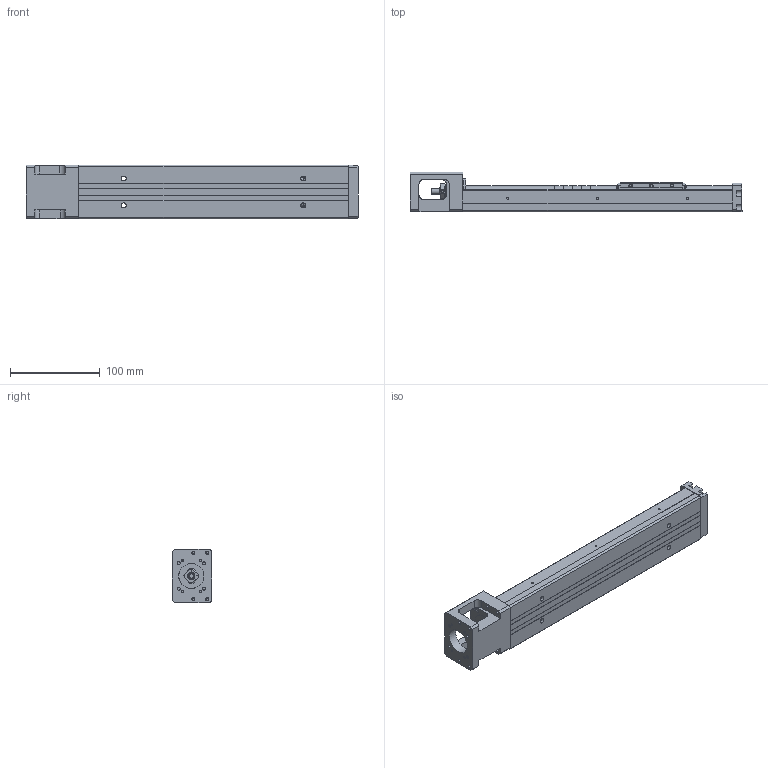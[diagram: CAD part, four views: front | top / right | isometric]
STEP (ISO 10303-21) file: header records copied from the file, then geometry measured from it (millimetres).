
FILE_DESCRIPTION(/* description */ (''),/* implementation_level */ '2;1');
FILE_NAME(/* name */ 'KP33N-300C02.stp',/* time_stamp */ '2019-02-26T13:12:24+08:00',/* author */ (''),/* organization */ (''),/* preprocessor_version */ 'ST-DEVELOPER v11',/* originating_system */ 'SIEMENS UGS NX 6.0',/* authorisation */ '');
FILE_SCHEMA (('CONFIG_CONTROL_DESIGN'));
Length unit declared in the file: millimetre
Products named in the file (1): darr5ADCiowf
Bounding box: 370 x 44.45 x 60 mm (x, y, z)
Volume: 433806.7 mm3; surface area: 121353.8 mm2
Topology: 5 solids, 10 shells, 620 faces, 1580 edges, 1041 vertices
Faces by surface type: plane 365, cylinder 172, bspline 31, cone 22, extrusion 21, torus 7, sphere 2
Full cylindrical faces by diameter (mm): 1.6 x3, 1.65 x4, 2.15 x3, 2.42 x4, 2.45 x2, 2.5 x12, 3 x3, 3.2 x4, 3.3 x4, 3.4 x3, 3.5 x10, 3.969 x1, 4 x6, 4.001 x1, 4.135 x4, 5.5 x4, 6 x5, 7.6 x1, 8 x5, 9.5 x4, 10.72 x3, 11.8 x2, 12 x6, 12.8 x1, 13 x2, 14 x1, 16 x4, 21.5 x1, 28 x1
Entity records: 29849 total; most frequent: CARTESIAN_POINT 15632, DIRECTION 2837, ORIENTED_EDGE 2756, EDGE_CURVE 1378, AXIS2_PLACEMENT_3D 996, VERTEX_POINT 974, EDGE_LOOP 870, VECTOR 845
